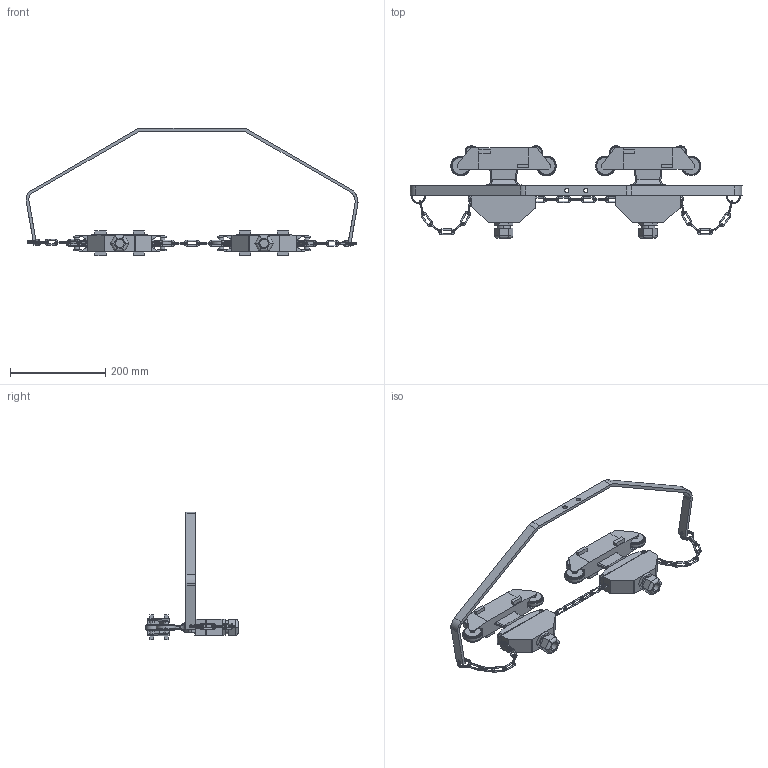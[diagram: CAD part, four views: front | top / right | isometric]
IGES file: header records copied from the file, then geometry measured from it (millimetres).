
Start section: Comment
Global section: file name: Chariot_double_2010_06.igs; native system:  By UGS Corp.; preprocessor: XPlus GENERIC/IGES 3.0; author: Author; organization: Title; date: 20100624.135252; units: millimetre
Bounding box: 696.29 x 194.35 x 267.54 mm (x, y, z)
Surface area: 265177.1 mm2 (no closed solid volume)
Topology: 0 solids, 0 shells, 690 faces, 3794 edges, 3786 vertices
Faces by surface type: bspline 690
